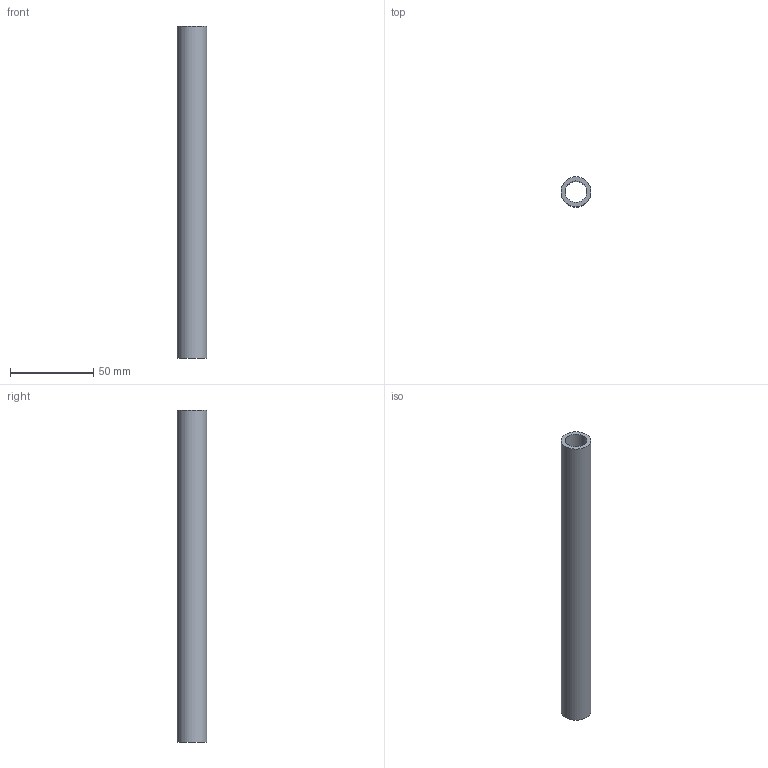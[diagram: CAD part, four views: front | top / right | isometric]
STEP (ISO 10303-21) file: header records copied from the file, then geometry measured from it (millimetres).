
FILE_DESCRIPTION((''),'2;1');
FILE_NAME('C:\Vault Klient\Projekt\Step\300-3000.stp','2009-12-04T12:27:51',('Mathias'),(''),'Autodesk Inventor 2010','Autodesk Inventor 2010','');
FILE_SCHEMA(('CONFIG_CONTROL_DESIGN'));
Length unit declared in the file: millimetre
Products named in the file (1): 300-3000-01
Bounding box: 18 x 18 x 200 mm (x, y, z)
Volume: 24347.3 mm3; surface area: 19721.3 mm2
Topology: 1 solids, 1 shells, 4 faces, 6 edges, 4 vertices
Faces by surface type: cylinder 2, plane 2
Full cylindrical faces by diameter (mm): 13 x1, 18 x1
Entity records: 114 total; most frequent: DIRECTION 18, CARTESIAN_POINT 13, AXIS2_PLACEMENT_3D 9, ORIENTED_EDGE 8, EDGE_LOOP 8, VERTEX_POINT 4, CIRCLE 4, EDGE_CURVE 4
